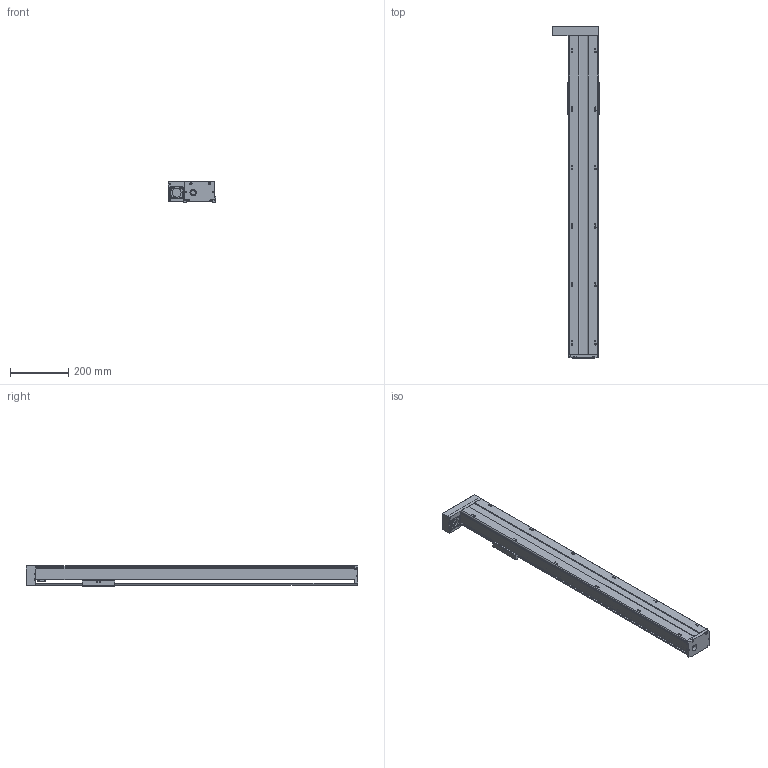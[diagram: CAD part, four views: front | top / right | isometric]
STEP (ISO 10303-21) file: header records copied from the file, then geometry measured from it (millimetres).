
FILE_DESCRIPTION(/* description */ (''),/* implementation_level */ '2;1');
FILE_NAME(/* name */ 'TKA100-FL-900_asm1.stp',/* time_stamp */ '2016-05-17T14:57:37+08:00',/* author */ (''),/* organization */ (''),/* preprocessor_version */ 'ST-DEVELOPER v15',/* originating_system */ 'SIEMENS PLM Software NX 8.5',/* authorisation */ '');
FILE_SCHEMA (('AUTOMOTIVE_DESIGN { 1 0 10303 214 3 1 1 1 }'));
Length unit declared in the file: millimetre
Products named in the file (3): 200-2; 200-1; TKA100-FL-900_asm1
Assembly tree (2 placements, depth 2):
  TKA100-FL-900_asm1
    200-1
    200-2
Bounding box: 162 x 1136 x 71 mm (x, y, z)
Volume: 2360338.4 mm3; surface area: 802810.8 mm2
Topology: 2 solids, 16 shells, 800 faces, 2088 edges, 1357 vertices
Faces by surface type: plane 318, cylinder 305, cone 123, torus 28, bspline 26
Full cylindrical faces by diameter (mm): 2.5 x6, 2.6 x8, 3.3 x11, 3.4 x4, 3.8 x8, 4.2 x21, 4.3 x4, 4.5 x10, 5 x2, 5.5 x20, 6.6 x4, 8 x4, 9 x6, 10 x7, 11 x4, 12 x6, 15.3 x1, 16 x1, 22 x1, 24 x1, 28 x2, 30 x1, 33 x1
Entity records: 29441 total; most frequent: CARTESIAN_POINT 10807, DIRECTION 3815, ORIENTED_EDGE 3620, EDGE_CURVE 1810, AXIS2_PLACEMENT_3D 1505, VERTEX_POINT 1286, EDGE_LOOP 1111, LINE 805
